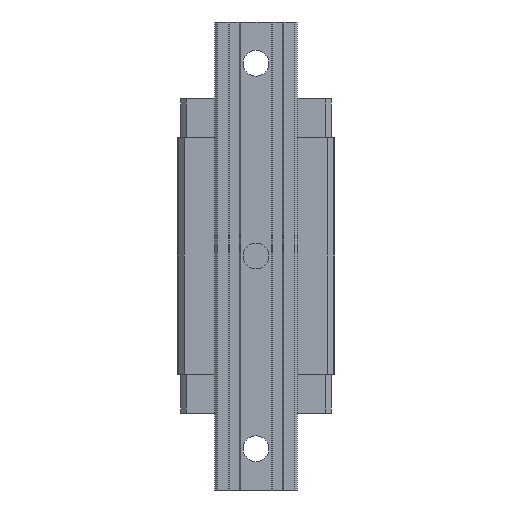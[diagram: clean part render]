
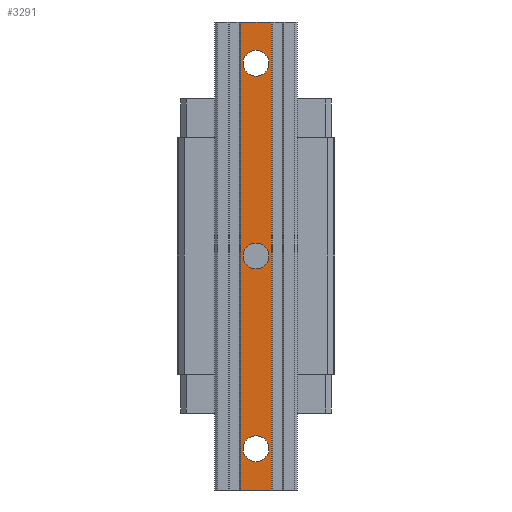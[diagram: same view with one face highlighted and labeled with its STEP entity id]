
A CAD part, front view. The second image highlights one B-rep face of the part: STEP entity #3291.
In plain terms, the highlighted planar face has unit normal (0, -1, 0).
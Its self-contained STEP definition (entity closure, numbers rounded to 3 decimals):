
#2215=DIRECTION('',(-1.,0.,0.));
#2216=VECTOR('',#2215,16.5);
#2217=CARTESIAN_POINT('',(8.25,-38.,-127.5));
#2218=LINE('',#2217,#2216);
#2219=DIRECTION('',(0.,0.,-1.));
#2220=VECTOR('',#2219,255.);
#2221=CARTESIAN_POINT('',(8.25,-38.,127.5));
#2222=LINE('',#2221,#2220);
#2223=CARTESIAN_POINT('',(0.,-38.,0.));
#2224=DIRECTION('',(0.,-1.,0.));
#2225=DIRECTION('',(1.,0.,0.));
#2226=AXIS2_PLACEMENT_3D('',#2223,#2224,#2225);
#2228=CARTESIAN_POINT('',(0.,-38.,0.));
#2229=DIRECTION('',(0.,-1.,0.));
#2230=DIRECTION('',(-1.,0.,0.));
#2231=AXIS2_PLACEMENT_3D('',#2228,#2229,#2230);
#2233=CARTESIAN_POINT('',(0.,-38.,105.));
#2234=DIRECTION('',(0.,-1.,0.));
#2235=DIRECTION('',(1.,0.,0.));
#2236=AXIS2_PLACEMENT_3D('',#2233,#2234,#2235);
#2238=CARTESIAN_POINT('',(0.,-38.,105.));
#2239=DIRECTION('',(0.,-1.,0.));
#2240=DIRECTION('',(-1.,0.,0.));
#2241=AXIS2_PLACEMENT_3D('',#2238,#2239,#2240);
#2243=CARTESIAN_POINT('',(0.,-38.,-105.));
#2244=DIRECTION('',(0.,-1.,0.));
#2245=DIRECTION('',(1.,0.,0.));
#2246=AXIS2_PLACEMENT_3D('',#2243,#2244,#2245);
#2248=CARTESIAN_POINT('',(0.,-38.,-105.));
#2249=DIRECTION('',(0.,-1.,0.));
#2250=DIRECTION('',(-1.,0.,0.));
#2251=AXIS2_PLACEMENT_3D('',#2248,#2249,#2250);
#2253=DIRECTION('',(0.,0.,-1.));
#2254=VECTOR('',#2253,255.);
#2255=CARTESIAN_POINT('',(-8.25,-38.,127.5));
#2256=LINE('',#2255,#2254);
#2478=DIRECTION('',(-1.,0.,0.));
#2479=VECTOR('',#2478,16.5);
#2480=CARTESIAN_POINT('',(8.25,-38.,127.5));
#2481=LINE('',#2480,#2479);
#2731=CARTESIAN_POINT('',(-8.25,-38.,-127.5));
#2732=VERTEX_POINT('',#2731);
#2733=CARTESIAN_POINT('',(8.25,-38.,-127.5));
#2734=VERTEX_POINT('',#2733);
#2807=CARTESIAN_POINT('',(8.25,-38.,127.5));
#2808=VERTEX_POINT('',#2807);
#2809=CARTESIAN_POINT('',(-8.25,-38.,127.5));
#2810=VERTEX_POINT('',#2809);
#2811=CARTESIAN_POINT('',(7.,-38.,0.));
#2812=CARTESIAN_POINT('',(-7.,-38.,0.));
#2813=VERTEX_POINT('',#2811);
#2814=VERTEX_POINT('',#2812);
#2815=CARTESIAN_POINT('',(7.,-38.,105.));
#2816=CARTESIAN_POINT('',(-7.,-38.,105.));
#2817=VERTEX_POINT('',#2815);
#2818=VERTEX_POINT('',#2816);
#2819=CARTESIAN_POINT('',(7.,-38.,-105.));
#2820=CARTESIAN_POINT('',(-7.,-38.,-105.));
#2821=VERTEX_POINT('',#2819);
#2822=VERTEX_POINT('',#2820);
#3260=CARTESIAN_POINT('',(-8.25,-38.,-127.5));
#3261=DIRECTION('',(0.,-1.,0.));
#3262=DIRECTION('',(1.,0.,0.));
#3263=AXIS2_PLACEMENT_3D('',#3260,#3261,#3262);
#3264=PLANE('',#3263);
#3265=ORIENTED_EDGE('',*,*,#2952,.T.);
#3267=ORIENTED_EDGE('',*,*,#3266,.F.);
#3269=ORIENTED_EDGE('',*,*,#3268,.F.);
#3270=ORIENTED_EDGE('',*,*,#3252,.T.);
#3271=EDGE_LOOP('',(#3265,#3267,#3269,#3270));
#3272=FACE_OUTER_BOUND('',#3271,.F.);
#3274=ORIENTED_EDGE('',*,*,#3273,.T.);
#3276=ORIENTED_EDGE('',*,*,#3275,.T.);
#3277=EDGE_LOOP('',(#3274,#3276));
#3278=FACE_BOUND('',#3277,.F.);
#3280=ORIENTED_EDGE('',*,*,#3279,.T.);
#3282=ORIENTED_EDGE('',*,*,#3281,.T.);
#3283=EDGE_LOOP('',(#3280,#3282));
#3284=FACE_BOUND('',#3283,.F.);
#3286=ORIENTED_EDGE('',*,*,#3285,.T.);
#3288=ORIENTED_EDGE('',*,*,#3287,.T.);
#3289=EDGE_LOOP('',(#3286,#3288));
#3290=FACE_BOUND('',#3289,.F.);
#3291=ADVANCED_FACE('',(#3272,#3278,#3284,#3290),#3264,.T.);
#2227=CIRCLE('',#2226,7.);
#2232=CIRCLE('',#2231,7.);
#2237=CIRCLE('',#2236,7.);
#2242=CIRCLE('',#2241,7.);
#2247=CIRCLE('',#2246,7.);
#2252=CIRCLE('',#2251,7.);
#2952=EDGE_CURVE('',#2734,#2732,#2218,.T.);
#3252=EDGE_CURVE('',#2808,#2734,#2222,.T.);
#3266=EDGE_CURVE('',#2810,#2732,#2256,.T.);
#3268=EDGE_CURVE('',#2808,#2810,#2481,.T.);
#3273=EDGE_CURVE('',#2813,#2814,#2227,.T.);
#3275=EDGE_CURVE('',#2814,#2813,#2232,.T.);
#3279=EDGE_CURVE('',#2817,#2818,#2237,.T.);
#3281=EDGE_CURVE('',#2818,#2817,#2242,.T.);
#3285=EDGE_CURVE('',#2821,#2822,#2247,.T.);
#3287=EDGE_CURVE('',#2822,#2821,#2252,.T.);
